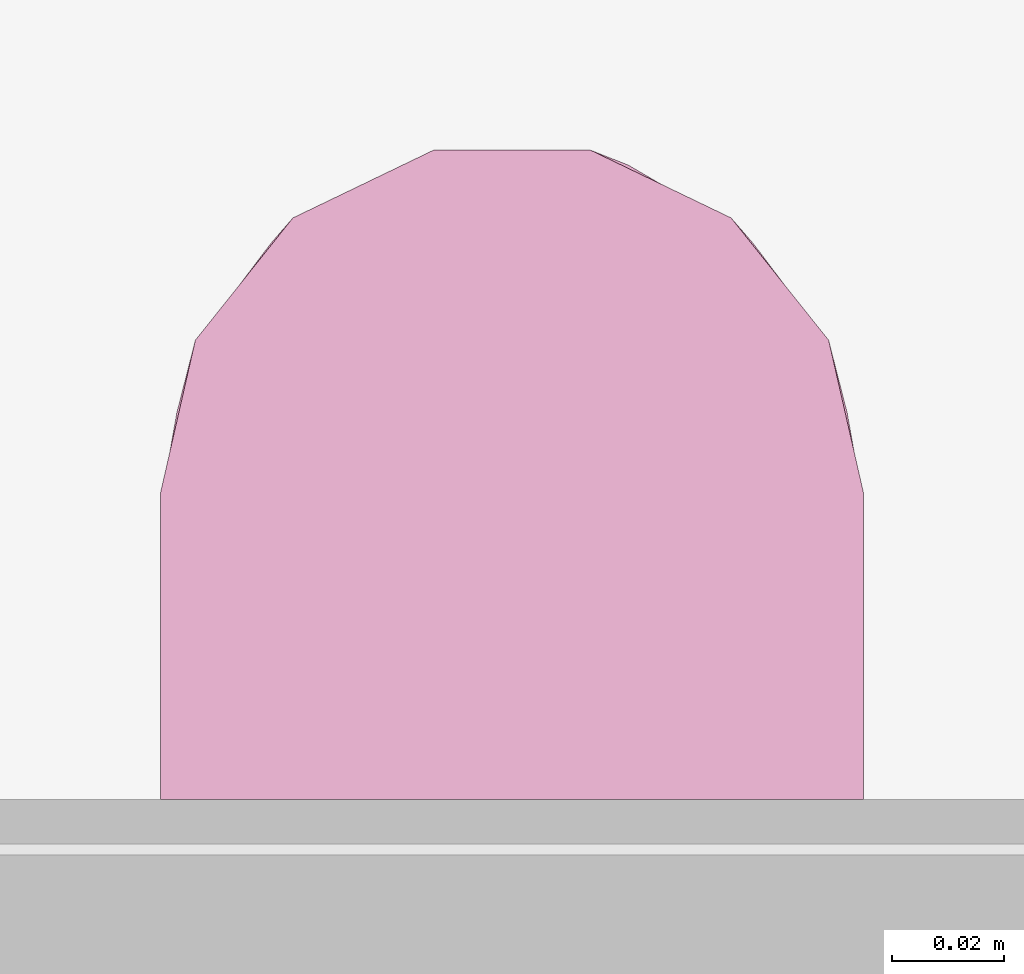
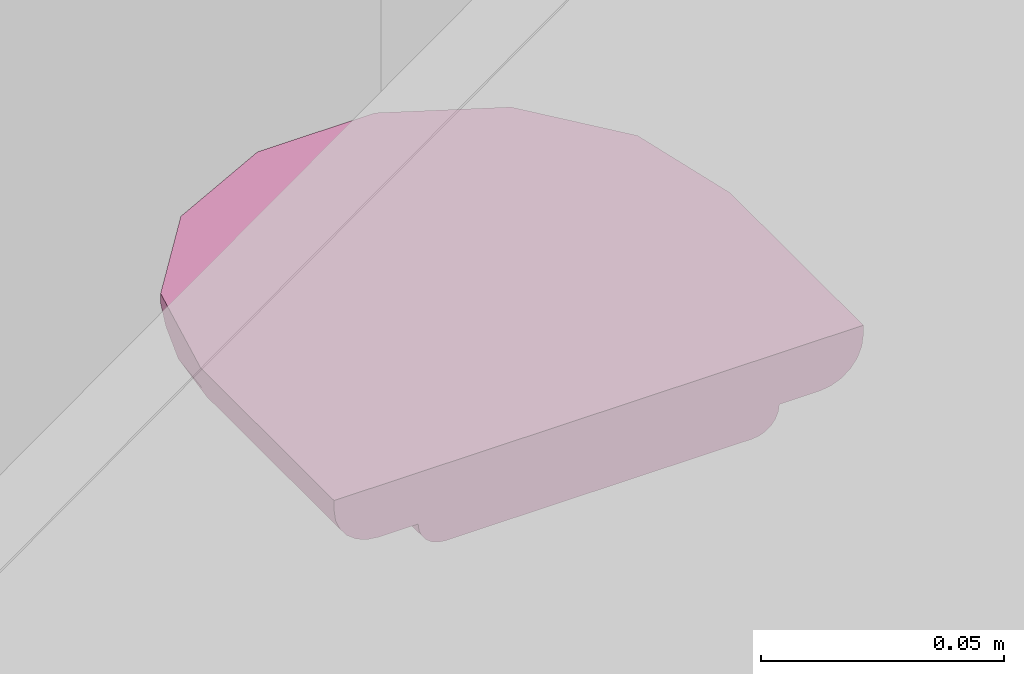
# One storey, part 49 of 51: 1 furniture element.
"""IFC4 building model written with IfcOpenShell, lengths in metres."""

from ifc_helpers import new_model, entity, si_unit, converted_unit, derived_unit, direction, frame, origin, place, context, subcontext, project, spatial, polygons, source, transform, mapped, material, type_object, type_shapes, element, save


model = new_model("IFC4")

# Units and contexts
model_context = context("Model", 3, precision=1e-05, world=origin(), true_north=direction((6.123031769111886e-17, 1.0)))
body_context = subcontext(model_context, "Body", "Model", "MODEL_VIEW")
ifc_project = project(units=[si_unit("LENGTHUNIT", "METRE"), si_unit("AREAUNIT", "SQUARE_METRE"), si_unit("VOLUMEUNIT", "CUBIC_METRE"), converted_unit("PLANEANGLEUNIT", "DEGREE", entity("IfcRatioMeasure", 0.017453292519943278), si_unit("PLANEANGLEUNIT", "RADIAN"), dimensions=[0, 0, 0, 0, 0, 0, 0]), si_unit("MASSUNIT", "GRAM", prefix="KILO"), derived_unit("MASSDENSITYUNIT", [(si_unit("MASSUNIT", "GRAM", prefix="KILO"), 1), (si_unit("LENGTHUNIT", "METRE"), -3)]), derived_unit("IONCONCENTRATIONUNIT", [(si_unit("MASSUNIT", "GRAM", prefix="KILO"), 1), (si_unit("LENGTHUNIT", "METRE"), -3)]), derived_unit("MOMENTOFINERTIAUNIT", [(si_unit("LENGTHUNIT", "METRE"), 4)]), si_unit("TIMEUNIT", "SECOND"), si_unit("FREQUENCYUNIT", "HERTZ"), si_unit("THERMODYNAMICTEMPERATUREUNIT", "DEGREE_CELSIUS"), derived_unit("THERMALTRANSMITTANCEUNIT", [(si_unit("MASSUNIT", "GRAM", prefix="KILO"), 1), (si_unit("THERMODYNAMICTEMPERATUREUNIT", "KELVIN"), -1), (si_unit("TIMEUNIT", "SECOND"), -3)]), derived_unit("THERMALCONDUCTANCEUNIT", [(si_unit("MASSUNIT", "GRAM", prefix="KILO"), 1), (si_unit("THERMODYNAMICTEMPERATUREUNIT", "KELVIN"), -1), (si_unit("TIMEUNIT", "SECOND"), -3), (si_unit("LENGTHUNIT", "METRE"), 1)]), derived_unit("VOLUMETRICFLOWRATEUNIT", [(si_unit("LENGTHUNIT", "METRE"), 3), (si_unit("TIMEUNIT", "SECOND"), -1)]), derived_unit("MASSFLOWRATEUNIT", [(si_unit("MASSUNIT", "GRAM", prefix="KILO"), 1), (si_unit("TIMEUNIT", "SECOND"), -1)]), derived_unit("ROTATIONALFREQUENCYUNIT", [(si_unit("TIMEUNIT", "SECOND"), -1)]), si_unit("ELECTRICCURRENTUNIT", "AMPERE"), si_unit("ELECTRICVOLTAGEUNIT", "VOLT"), si_unit("POWERUNIT", "WATT"), si_unit("FORCEUNIT", "NEWTON", prefix="KILO"), si_unit("ILLUMINANCEUNIT", "LUX"), si_unit("LUMINOUSFLUXUNIT", "LUMEN"), si_unit("LUMINOUSINTENSITYUNIT", "CANDELA"), derived_unit("USERDEFINED", [(si_unit("MASSUNIT", "GRAM", prefix="KILO"), -1), (si_unit("LENGTHUNIT", "METRE"), -2), (si_unit("TIMEUNIT", "SECOND"), 3), (si_unit("LUMINOUSFLUXUNIT", "LUMEN"), 1)]), derived_unit("USERDEFINED", [(si_unit("MASSUNIT", "GRAM", prefix="KILO"), 1), (si_unit("TIMEUNIT", "SECOND"), -3), (si_unit("LENGTHUNIT", "METRE"), 3), (si_unit("ELECTRICCURRENTUNIT", "AMPERE"), -2)]), derived_unit("SOUNDPOWERUNIT", [(si_unit("MASSUNIT", "GRAM", prefix="KILO"), 1), (si_unit("TIMEUNIT", "SECOND"), -3), (si_unit("LENGTHUNIT", "METRE"), 2)]), derived_unit("SOUNDPRESSUREUNIT", [(si_unit("MASSUNIT", "GRAM", prefix="KILO"), 1), (si_unit("LENGTHUNIT", "METRE"), -1), (si_unit("TIMEUNIT", "SECOND"), -2)]), derived_unit("LINEARVELOCITYUNIT", [(si_unit("LENGTHUNIT", "METRE"), 1), (si_unit("TIMEUNIT", "SECOND"), -1)]), si_unit("PRESSUREUNIT", "PASCAL"), derived_unit("USERDEFINED", [(si_unit("MASSUNIT", "GRAM", prefix="KILO"), 1), (si_unit("LENGTHUNIT", "METRE"), -2), (si_unit("TIMEUNIT", "SECOND"), -2)]), derived_unit("LINEARFORCEUNIT", [(si_unit("MASSUNIT", "GRAM", prefix="KILO"), 1), (si_unit("TIMEUNIT", "SECOND"), -2)]), derived_unit("PLANARFORCEUNIT", [(si_unit("MASSUNIT", "GRAM", prefix="KILO"), 1), (si_unit("LENGTHUNIT", "METRE"), -1), (si_unit("TIMEUNIT", "SECOND"), -2)]), derived_unit("SPECIFICHEATCAPACITYUNIT", [(si_unit("THERMODYNAMICTEMPERATUREUNIT", "KELVIN"), -1), (si_unit("LENGTHUNIT", "METRE"), 2), (si_unit("TIMEUNIT", "SECOND"), -2)]), derived_unit("HEATINGVALUEUNIT", [(si_unit("LENGTHUNIT", "METRE"), 2), (si_unit("TIMEUNIT", "SECOND"), -2)]), derived_unit("VAPORPERMEABILITYUNIT", [(si_unit("LENGTHUNIT", "METRE"), -1), (si_unit("TIMEUNIT", "SECOND"), 1)]), derived_unit("DYNAMICVISCOSITYUNIT", [(si_unit("MASSUNIT", "GRAM", prefix="KILO"), 1), (si_unit("TIMEUNIT", "SECOND"), -1), (si_unit("LENGTHUNIT", "METRE"), -1)]), derived_unit("THERMALEXPANSIONCOEFFICIENTUNIT", [(si_unit("THERMODYNAMICTEMPERATUREUNIT", "KELVIN"), -1)]), derived_unit("MODULUSOFELASTICITYUNIT", [(si_unit("MASSUNIT", "GRAM", prefix="KILO"), 1), (si_unit("LENGTHUNIT", "METRE"), -1), (si_unit("TIMEUNIT", "SECOND"), -2)]), derived_unit("ISOTHERMALMOISTURECAPACITYUNIT", [(si_unit("LENGTHUNIT", "METRE"), 3), (si_unit("MASSUNIT", "GRAM", prefix="KILO"), -1)]), derived_unit("MOISTUREDIFFUSIVITYUNIT", [(si_unit("TIMEUNIT", "SECOND"), -1), (si_unit("LENGTHUNIT", "METRE"), 2)])], contexts=[model_context])

# Site, building, storey, space
site_placement = place(None, origin())
site = spatial("IfcSite", under=ifc_project, at=site_placement, Name="Default", CompositionType="ELEMENT")
building_placement = place(site_placement, origin())
building = spatial("IfcBuilding", under=site, at=building_placement, CompositionType="ELEMENT")
storey_placement = place(building_placement, frame((0.0, 0.0, 2.350000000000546)))
storey = spatial("IfcBuildingStorey", under=building, at=storey_placement, Name="Nivel 2", CompositionType="ELEMENT", Elevation=2.350000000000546)
space_placement = place(storey_placement, origin())
space = spatial("IfcSpace", under=storey, at=space_placement, Name="419", CompositionType="ELEMENT", PredefinedType="SPACE")

# Furniture
ifc_material = material(Name="CERAMICA APARATOS", Category="Materials")
furniture_type = type_object("IfcFurnitureType", Name="E2050 - Jabonera:E2050 - Jabonera - Ceramica", AssemblyPlace="NOTDEFINED", PredefinedType="NOTDEFINED", material=ifc_material)
shared_shape = source(origin(), body_context, "Body", "Tessellation", [
    polygons([(-0.05252423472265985, -0.012920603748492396, -3.98642579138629e-15), (-0.05523556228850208, -0.012563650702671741, -3.97690233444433e-15), (-0.05776211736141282, -0.011517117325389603, -3.958155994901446e-15), (-0.059931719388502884, -0.00985232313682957, -3.931464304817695e-15), (-0.06159651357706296, -0.007682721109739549, -3.898646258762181e-15), (-0.06264304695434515, -0.005156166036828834, -3.8619383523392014e-15), (-0.0630000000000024, -0.002444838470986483, -3.823842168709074e-15), (-0.0630000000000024, -8.82367512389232e-15, -3.79003495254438e-15), (0.06300000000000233, -8.823675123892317e-15, -4.003224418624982e-15), (0.06300000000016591, -0.002444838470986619, -4.037031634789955e-15), (0.06264304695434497, -0.0051561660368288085, -4.073919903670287e-15), (0.06159651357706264, -0.007682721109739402, -4.107086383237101e-15), (0.059931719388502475, -0.009852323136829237, -4.134270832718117e-15), (0.05776211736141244, -0.011517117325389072, -4.153620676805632e-15), (0.055235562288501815, -0.012563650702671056, -4.163817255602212e-15), (0.05252423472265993, -0.012920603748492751, -4.164165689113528e-15), (0.04300000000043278, -0.01292060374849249, -4.1480508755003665e-15), (0.042779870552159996, -0.01459265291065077, -4.170799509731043e-15), (0.04213448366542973, -0.01615075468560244, -4.191252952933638e-15), (0.041107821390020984, -0.01748872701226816, -4.20801733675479e-15), (0.03976984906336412, -0.018515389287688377, -4.219950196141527e-15), (0.03821174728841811, -0.019160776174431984, -4.226238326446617e-15), (0.03653969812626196, -0.019380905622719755, -4.226453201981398e-15), (-0.03653969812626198, -0.019380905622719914, -4.1028043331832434e-15), (-0.03821174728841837, -0.019160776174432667, -4.096931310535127e-15), (-0.03976984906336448, -0.018515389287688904, -4.08537062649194e-15), (-0.04110782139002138, -0.017488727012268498, -4.068910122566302e-15), (-0.042134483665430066, -0.01615075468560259, -4.0486715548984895e-15), (-0.04277987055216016, -0.014592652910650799, -4.026034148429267e-15), (-0.04300000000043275, -0.012920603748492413, -4.002540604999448e-15), (-0.05252423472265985, -0.012920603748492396, 0.05500000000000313), (-0.05523556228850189, -0.012563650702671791, 0.05500000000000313), (-0.05776211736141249, -0.011517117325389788, 0.05500000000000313), (-0.0599317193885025, -0.009852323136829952, 0.05500000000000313), (-0.06159651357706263, -0.007682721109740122, 0.05500000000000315), (-0.06264304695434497, -0.005156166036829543, 0.05500000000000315), (-0.06300000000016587, -0.0024448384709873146, 0.055000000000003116), (-0.0630000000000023, -9.584537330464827e-15, 0.05500000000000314), (-0.05676103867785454, -9.98278301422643e-15, 0.08233467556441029), (-0.03927985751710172, -1.0341963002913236e-14, 0.10425538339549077), (-0.014018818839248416, -1.0591040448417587e-14, 0.11642045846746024), (0.014018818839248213, -1.0680682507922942e-14, 0.11642045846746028), (0.03927985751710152, -1.0593134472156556e-14, 0.1042553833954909), (0.05676103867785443, -1.0345736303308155e-14, 0.08233467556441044), (0.06300000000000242, -9.987488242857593e-15, 0.055000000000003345), (-0.036539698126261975, -0.019380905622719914, 0.055000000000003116), (-0.03821174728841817, -0.019160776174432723, 0.055000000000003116), (-0.03976984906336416, -0.018515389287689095, 0.055000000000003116), (-0.04110782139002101, -0.017488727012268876, 0.055000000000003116), (-0.04213448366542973, -0.016150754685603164, 0.055000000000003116), (-0.042779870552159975, -0.014592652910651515, 0.055000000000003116), (-0.04300000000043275, -0.012920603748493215, 0.05500000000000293), (-0.03723909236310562, -0.012920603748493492, 0.07650000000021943), (-0.021500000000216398, -0.012920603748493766, 0.09223909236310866), (-7.613909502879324e-17, -0.012920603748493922, 0.09800000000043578), (0.021500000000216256, -0.012920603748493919, 0.09223909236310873), (0.03723909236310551, -0.012920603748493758, 0.07650000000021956), (0.04300000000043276, -0.012920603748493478, 0.05500000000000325), (0.05252423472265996, -0.012920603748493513, 0.05500000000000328), (0.04732270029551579, -0.012920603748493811, 0.0777894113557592), (0.03274832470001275, -0.012920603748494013, 0.09606510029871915), (0.011687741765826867, -0.012920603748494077, 0.106207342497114), (-0.011687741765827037, -0.012920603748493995, 0.10620734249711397), (-0.0327483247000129, -0.012920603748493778, 0.09606510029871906), (-0.0473227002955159, -0.012920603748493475, 0.07778941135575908), (0.05523556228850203, -0.012563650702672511, 0.05500000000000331), (0.05776211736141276, -0.011517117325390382, 0.05500000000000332), (0.059931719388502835, -0.009852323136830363, 0.055000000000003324), (0.06159651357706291, -0.007682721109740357, 0.05500000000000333), (0.06264304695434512, -0.005156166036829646, 0.055000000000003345), (0.06300000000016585, -0.002444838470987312, 0.055000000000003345), (0.05676103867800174, -0.002444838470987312, 0.08233467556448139), (0.039279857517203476, -0.002444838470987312, 0.10425538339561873), (0.014018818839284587, -0.002444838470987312, 0.11642045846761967), (-0.01401881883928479, -0.002444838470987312, 0.11642045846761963), (-0.03927985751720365, -0.002444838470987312, 0.10425538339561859), (-0.056761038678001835, -0.002444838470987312, 0.08233467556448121), (-0.05541537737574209, -0.00994065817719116, 0.0775884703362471), (0.05541537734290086, -0.009940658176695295, 0.07758847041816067), (-0.06068843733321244, -0.002444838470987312, 0.06512761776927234), (0.06068843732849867, -0.002444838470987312, 0.06512761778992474), (-0.06009482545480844, -0.0073735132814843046, 0.06927989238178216), (0.06009482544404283, -0.007373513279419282, 0.06927989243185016), (1.1920939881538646e-10, -0.009647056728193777, 0.11513144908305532), (-0.02296028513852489, -0.010016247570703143, 0.11017763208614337), (0.022960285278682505, -0.010016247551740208, 0.11017763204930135), (-0.0423486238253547, -0.010229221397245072, 0.09684448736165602), (0.04234862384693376, -0.010229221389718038, 0.09684448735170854), (-0.049923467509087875, -0.012920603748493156, 0.06639470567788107), (0.04992346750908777, -0.012920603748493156, 0.06639470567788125), (-0.05703578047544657, -0.0065083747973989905, 0.07976375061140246), (-0.048020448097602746, -0.002444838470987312, 0.0932950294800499), (-0.05024267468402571, -0.007894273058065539, 0.09041697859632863), (-0.04930529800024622, -0.01152280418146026, 0.08507175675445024), (-0.04320181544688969, -0.006488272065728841, 0.09973226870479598), (-0.026649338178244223, -0.002444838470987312, 0.11033792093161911), (-0.033651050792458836, -0.008354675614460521, 0.10608663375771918), (-0.033585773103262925, -0.011709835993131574, 0.10156463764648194), (-0.04003551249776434, -0.012920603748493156, 0.08692725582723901), (-0.020861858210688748, -0.0061859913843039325, 0.11371301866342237), (-0.008798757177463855, -0.006760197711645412, 0.11644307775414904), (-1.0151879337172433e-16, -0.002444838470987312, 0.11642045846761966), (-0.011582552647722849, -0.010395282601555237, 0.1132044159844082), (-8.671396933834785e-17, -0.012920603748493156, 0.10620734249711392), (0.005858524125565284, -0.012067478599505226, 0.1113613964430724), (0.011714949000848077, -0.009815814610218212, 0.11381264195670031), (0.01809843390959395, -0.006648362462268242, 0.11442472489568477), (0.02664933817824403, -0.002444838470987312, 0.11033792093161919), (0.033532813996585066, -0.007293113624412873, 0.10692394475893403), (0.03311804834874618, -0.010897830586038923, 0.10347984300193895), (0.05703578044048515, -0.006508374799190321, 0.07976375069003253), (0.0480204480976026, -0.002444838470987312, 0.09329502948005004), (0.050242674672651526, -0.007894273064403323, 0.09041697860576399), (0.04930529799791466, -0.01152280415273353, 0.08507175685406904), (0.043201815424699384, -0.006488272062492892, 0.09973226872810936), (-0.022218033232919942, -0.012920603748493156, 0.10113622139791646), (0.02221803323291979, -0.012920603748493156, 0.10113622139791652), (0.04003551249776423, -0.012920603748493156, 0.08692725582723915), (-0.05917785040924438, -0.002444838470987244, 0.07174593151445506), (-0.059880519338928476, -9.58464048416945e-15, 0.06866733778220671), (-0.04802044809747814, -9.584640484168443e-15, 0.09329502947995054), (-0.02664933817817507, -9.584640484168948e-15, 0.11033792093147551), (-1.0151879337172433e-16, -9.584640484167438e-15, 0.11642045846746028), (0.026649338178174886, -9.584640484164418e-15, 0.1103379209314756), (0.048020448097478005, -9.584640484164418e-15, 0.09329502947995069), (0.05917785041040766, -9.584640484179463e-15, 0.07174593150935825), (0.05988051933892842, -0.002444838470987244, 0.06866733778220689), (-0.03529463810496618, -0.019380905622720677, 0.0644571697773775), (-0.031644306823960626, -0.019380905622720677, 0.07326984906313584), (-0.025837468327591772, -0.019380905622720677, 0.08083746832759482), (-0.018269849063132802, -0.019380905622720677, 0.08664430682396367), (-0.009457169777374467, -0.019380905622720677, 0.09029463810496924), (-6.388409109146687e-17, -0.019380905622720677, 0.09153969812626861), (0.00945716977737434, -0.019380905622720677, 0.09029463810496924), (0.018269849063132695, -0.019380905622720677, 0.08664430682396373), (0.025837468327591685, -0.019380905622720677, 0.08083746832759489), (0.03164430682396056, -0.019380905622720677, 0.07326984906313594), (0.035294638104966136, -0.019380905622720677, 0.06445716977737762), (0.03653969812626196, -0.019380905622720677, 0.05500000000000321), (0.03821174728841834, -0.01916077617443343, 0.05500000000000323), (0.03976984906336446, -0.01851538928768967, 0.055000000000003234), (0.041107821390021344, -0.01748872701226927, 0.05500000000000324), (0.04213448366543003, -0.01615075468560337, 0.05500000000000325), (0.04277987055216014, -0.014592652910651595, 0.05500000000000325), (-0.039354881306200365, -0.01681536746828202, 0.06876876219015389), (0.039354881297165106, -0.016815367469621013, 0.0687687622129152), (-0.03969397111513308, -0.012920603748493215, 0.06733826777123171), (0.039693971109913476, -0.012920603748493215, 0.06733826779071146), (-0.029990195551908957, -0.017045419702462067, 0.0837021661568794), (0.02999019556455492, -0.017045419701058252, 0.08370216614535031), (-0.014068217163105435, -0.017293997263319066, 0.09382432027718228), (0.0140682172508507, -0.01729399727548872, 0.0938243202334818), (-0.0414288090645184, -0.016256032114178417, 0.06233060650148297), (0.04142880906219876, -0.016256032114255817, 0.06233060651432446), (-0.03509474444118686, -0.018469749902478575, 0.07387308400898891), (0.03509474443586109, -0.018469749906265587, 0.07387308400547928), (-0.022452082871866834, -0.018468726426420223, 0.08792225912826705), (-0.004758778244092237, -0.018468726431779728, 0.09456419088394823), (0.022452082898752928, -0.018468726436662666, 0.08792225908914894), (-0.010750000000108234, -0.012920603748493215, 0.09511954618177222), (-0.01649269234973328, -0.014958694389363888, 0.09435387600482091), (-0.02403627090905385, -0.015817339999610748, 0.08982450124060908), (-0.029369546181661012, -0.012920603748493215, 0.08436954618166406), (-0.005391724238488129, -0.015874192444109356, 0.09694013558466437), (0.003951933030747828, -0.017201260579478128, 0.09618908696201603), (-0.029447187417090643, -0.018870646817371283, 0.08065629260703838), (0.029447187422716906, -0.018870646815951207, 0.08065629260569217), (0.004753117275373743, -0.01891047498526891, 0.09366878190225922), (0.01247662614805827, -0.01887114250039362, 0.09200843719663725), (-0.013974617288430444, -0.018938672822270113, 0.09129118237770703), (0.021812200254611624, -0.016118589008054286, 0.09107073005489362), (-0.035603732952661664, -0.016145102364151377, 0.07753804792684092), (0.03560373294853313, -0.01614510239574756, 0.07753804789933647), (-0.0379779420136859, -0.01877351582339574, 0.06500795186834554), (0.03797794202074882, -0.018773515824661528, 0.06500795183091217), (0.029369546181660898, -0.012920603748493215, 0.08436954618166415), (0.010750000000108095, -0.012920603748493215, 0.09511954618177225)], [[[8, 9, 10, 11, 12, 13, 14, 15, 16, 17, 18, 19, 20, 21, 22, 23, 24, 25, 26, 27, 28, 29, 30, 1, 2, 3, 4, 5, 6, 7]], [[1, 31, 32, 2]], [[24, 46, 47, 25]], [[2, 32, 33, 3]], [[25, 47, 48, 26]], [[3, 33, 34, 4]], [[26, 48, 49, 27]], [[5, 35, 36, 6]], [[50, 51, 29, 28]], [[6, 36, 37, 7]], [[51, 52, 30, 29]], [[4, 34, 35, 5]], [[27, 49, 50, 28]], [[8, 7, 37, 38]], [[8, 38, 120, 39, 121, 40, 122, 41, 123, 42, 124, 43, 125, 44, 126, 45, 9]], [[17, 16, 59, 90, 60, 118, 61, 117, 62, 104, 63, 116, 64, 99, 65, 89, 31, 1, 30, 52, 147, 53, 163, 54, 160, 55, 177, 56, 176, 57, 148, 58]], [[133, 132, 131, 130, 129, 128, 46, 24, 23, 139, 138, 137, 136, 135, 134]], [[78, 33, 32]], [[90, 66, 79]], [[94, 87, 93]], [[65, 94, 89]], [[80, 37, 36]], [[36, 82, 80]], [[94, 99, 87]], [[70, 71, 81]], [[109, 107, 86]], [[116, 98, 64]], [[82, 36, 35]], [[93, 95, 92]], [[78, 94, 93]], [[34, 33, 82]], [[91, 92, 77]], [[97, 95, 87]], [[34, 82, 35]], [[33, 78, 82]], [[91, 82, 78]], [[82, 77, 119, 80]], [[77, 82, 91]], [[113, 115, 88]], [[63, 104, 103]], [[95, 93, 87]], [[105, 86, 106]], [[93, 91, 78]], [[98, 85, 97]], [[61, 118, 110]], [[66, 67, 79]], [[110, 88, 109]], [[76, 95, 97]], [[114, 90, 79]], [[105, 106, 84]], [[83, 67, 68]], [[32, 89, 78]], [[74, 107, 108]], [[111, 113, 79]], [[90, 59, 66]], [[79, 83, 111]], [[101, 75, 100]], [[83, 79, 67]], [[83, 81, 127, 72]], [[84, 102, 101]], [[81, 83, 70]], [[69, 83, 68]], [[32, 31, 89]], [[101, 103, 84]], [[105, 84, 103]], [[114, 79, 113]], [[70, 83, 69]], [[92, 91, 93]], [[89, 94, 78]], [[87, 99, 98]], [[100, 75, 96]], [[92, 95, 76]], [[87, 98, 97]], [[100, 97, 85]], [[76, 97, 96]], [[65, 99, 94]], [[103, 116, 63]], [[97, 100, 96]], [[64, 98, 99]], [[103, 101, 100]], [[103, 100, 85]], [[103, 85, 116]], [[106, 107, 84]], [[102, 75, 101]], [[104, 105, 103]], [[61, 110, 117]], [[105, 104, 62]], [[86, 105, 62]], [[86, 107, 106]], [[107, 102, 84]], [[108, 107, 109]], [[102, 107, 74]], [[108, 109, 73]], [[110, 109, 86]], [[111, 72, 112]], [[110, 86, 117]], [[60, 114, 118]], [[83, 72, 111]], [[88, 114, 113]], [[115, 109, 88]], [[111, 112, 113]], [[115, 112, 73]], [[114, 88, 118]], [[90, 114, 60]], [[112, 115, 113]], [[109, 115, 73]], [[98, 116, 85]], [[86, 62, 117]], [[110, 118, 88]], [[77, 39, 120, 38, 37, 80, 119]], [[121, 39, 77, 92, 76, 40]], [[126, 44, 72, 127, 81, 71, 45]], [[96, 75, 41, 122, 40, 76]], [[123, 41, 75, 102, 74, 42]], [[73, 43, 124, 42, 74, 108]], [[43, 73, 112, 72, 44, 125]], [[46, 128, 174]], [[133, 134, 168]], [[146, 156, 175]], [[128, 155, 174]], [[130, 131, 157]], [[151, 161, 162]], [[131, 170, 157]], [[147, 52, 51]], [[155, 145, 174]], [[156, 137, 138]], [[166, 157, 149]], [[131, 132, 170]], [[147, 145, 53]], [[173, 176, 150]], [[51, 50, 153]], [[161, 54, 162]], [[153, 49, 48]], [[165, 55, 164]], [[166, 129, 130]], [[151, 162, 157]], [[173, 150, 156]], [[154, 146, 175]], [[144, 58, 148]], [[48, 174, 153]], [[167, 159, 136]], [[174, 48, 47]], [[151, 170, 158]], [[151, 158, 164]], [[152, 165, 169]], [[173, 156, 146]], [[172, 155, 149]], [[136, 159, 135]], [[136, 137, 167]], [[148, 146, 154]], [[156, 138, 175]], [[155, 172, 145]], [[144, 154, 143]], [[159, 152, 169]], [[166, 155, 129]], [[175, 139, 140]], [[154, 141, 142]], [[145, 147, 153]], [[49, 153, 50]], [[152, 159, 171]], [[154, 142, 143]], [[154, 175, 141]], [[162, 163, 149]], [[171, 56, 177]], [[146, 148, 57]], [[158, 132, 133]], [[54, 161, 160]], [[148, 154, 144]], [[160, 161, 164]], [[155, 128, 129]], [[51, 153, 147]], [[165, 168, 169]], [[167, 156, 150]], [[150, 176, 171]], [[164, 161, 151]], [[53, 172, 163]], [[157, 162, 149]], [[162, 54, 163]], [[165, 164, 158]], [[160, 164, 55]], [[158, 133, 168]], [[152, 177, 165]], [[157, 166, 130]], [[155, 166, 149]], [[156, 167, 137]], [[159, 167, 150]], [[168, 134, 169]], [[158, 168, 165]], [[134, 135, 169]], [[159, 169, 135]], [[158, 170, 132]], [[157, 170, 151]], [[150, 171, 159]], [[55, 165, 177]], [[163, 172, 149]], [[53, 145, 172]], [[146, 57, 173]], [[171, 177, 152]], [[174, 145, 153]], [[46, 174, 47]], [[139, 175, 138]], [[141, 175, 140]], [[176, 173, 57]], [[56, 171, 176]], [[59, 16, 15, 66]], [[139, 23, 22, 140]], [[66, 15, 14, 67]], [[140, 22, 21, 141]], [[67, 14, 13, 68]], [[141, 21, 20, 142]], [[69, 12, 11, 70]], [[19, 18, 144, 143]], [[70, 11, 10, 71]], [[18, 17, 58, 144]], [[68, 13, 12, 69]], [[142, 20, 19, 143]], [[45, 71, 10, 9]]], closed=True),
])
type_shapes(furniture_type, [shared_shape])
furniture_placement = place(space_placement, frame((15.447498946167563, -6.355000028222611, 1.2500000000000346), z_axis=(0.0, 1.0, 0.0), x_axis=(-1.0, 0.0, 0.0)))
element("IfcFurniture", 1, at=furniture_placement, inside=space, type_object=furniture_type, material=ifc_material, Name="E2050 - Jabonera:E2050 - Jabonera - Ceramica", ObjectType="E2050 - Jabonera:E2050 - Jabonera - Ceramica", PredefinedType="NOTDEFINED", context=body_context, shape_type="MappedRepresentation", body=[
    mapped(shared_shape, transform((0.0, 0.0, 0.0), scale=1.0)),
])

save(model, "model.ifc")
